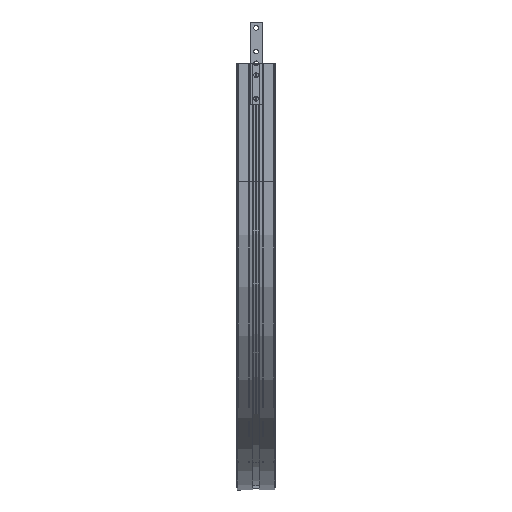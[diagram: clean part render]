
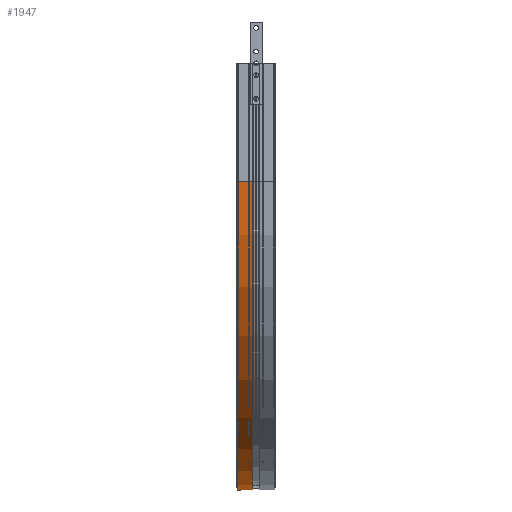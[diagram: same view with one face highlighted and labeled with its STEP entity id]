
A CAD part, left-side view. The second image highlights one B-rep face of the part: STEP entity #1947.
In plain terms, the highlighted cylindrical face has radius 522.5 mm (diameter 1045 mm), a partial arc.
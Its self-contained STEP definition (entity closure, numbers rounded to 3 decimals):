
#35 = AXIS2_PLACEMENT_3D ( 'NONE', #8225, #8222, #8227 ) ;
#1947 = ADVANCED_FACE ( 'NONE', ( #8224 ), #8223, .T. ) ;
#4210 = CARTESIAN_POINT ( 'NONE',  ( 500., 5.5, -200. ) ) ;
#4211 = DIRECTION ( 'NONE',  ( 0., -1., 0. ) ) ;
#4212 = DIRECTION ( 'NONE',  ( 0., 0., -1. ) ) ;
#4228 = CARTESIAN_POINT ( 'NONE',  ( 500., 32., -200. ) ) ;
#4229 = DIRECTION ( 'NONE',  ( 0., -1., 0. ) ) ;
#4230 = DIRECTION ( 'NONE',  ( 0., 0., -1. ) ) ;
#4241 = CARTESIAN_POINT ( 'NONE',  ( -22.5, 0., -200. ) ) ;
#4250 = LINE ( 'NONE', #4241, #13059 ) ;
#4254 = DIRECTION ( 'NONE',  ( 0., 1., 0. ) ) ;
#5187 = CARTESIAN_POINT ( 'NONE',  ( -22.5, 5.5, -200. ) ) ;
#5192 = CARTESIAN_POINT ( 'NONE',  ( 500., 32., -722.5 ) ) ;
#5195 = CARTESIAN_POINT ( 'NONE',  ( 500., 5.5, -722.5 ) ) ;
#5198 = CARTESIAN_POINT ( 'NONE',  ( -22.5, 32., -200. ) ) ;
#6101 = EDGE_CURVE ( 'NONE', #8960, #8963, #10360, .T. ) ;
#6143 = EDGE_CURVE ( 'NONE', #8955, #8963, #13044, .T. ) ;
#6149 = EDGE_CURVE ( 'NONE', #8966, #8960, #13052, .T. ) ;
#6158 = EDGE_CURVE ( 'NONE', #8955, #8966, #4250, .T. ) ;
#8222 = DIRECTION ( 'NONE',  ( 0., -1., 0. ) ) ;
#8223 = CYLINDRICAL_SURFACE ( 'NONE', #35, 522.5 ) ;
#8224 = FACE_OUTER_BOUND ( 'NONE', #8695, .T. ) ;
#8225 = CARTESIAN_POINT ( 'NONE',  ( 500., 0., -200. ) ) ;
#8227 = DIRECTION ( 'NONE',  ( 0., 0., -1. ) ) ;
#8695 = EDGE_LOOP ( 'NONE', ( #10759, #10814, #10865, #10880 ) ) ;
#8955 = VERTEX_POINT ( 'NONE', #5187 ) ;
#8960 = VERTEX_POINT ( 'NONE', #5192 ) ;
#8963 = VERTEX_POINT ( 'NONE', #5195 ) ;
#8966 = VERTEX_POINT ( 'NONE', #5198 ) ;
#10360 = LINE ( 'NONE', #10362, #13003 ) ;
#10362 = CARTESIAN_POINT ( 'NONE',  ( 500., 0., -722.5 ) ) ;
#10363 = DIRECTION ( 'NONE',  ( 0., -1., 0. ) ) ;
#10759 = ORIENTED_EDGE ( 'NONE', *, *, #6101, .T. ) ;
#10814 = ORIENTED_EDGE ( 'NONE', *, *, #6143, .F. ) ;
#10865 = ORIENTED_EDGE ( 'NONE', *, *, #6158, .T. ) ;
#10880 = ORIENTED_EDGE ( 'NONE', *, *, #6149, .T. ) ;
#13003 = VECTOR ( 'NONE', #10363, 1000. ) ;
#13044 = CIRCLE ( 'NONE', #13047, 522.5 ) ;
#13047 = AXIS2_PLACEMENT_3D ( 'NONE', #4210, #4211, #4212 ) ;
#13052 = CIRCLE ( 'NONE', #13054, 522.5 ) ;
#13054 = AXIS2_PLACEMENT_3D ( 'NONE', #4228, #4229, #4230 ) ;
#13059 = VECTOR ( 'NONE', #4254, 1000. ) ;
